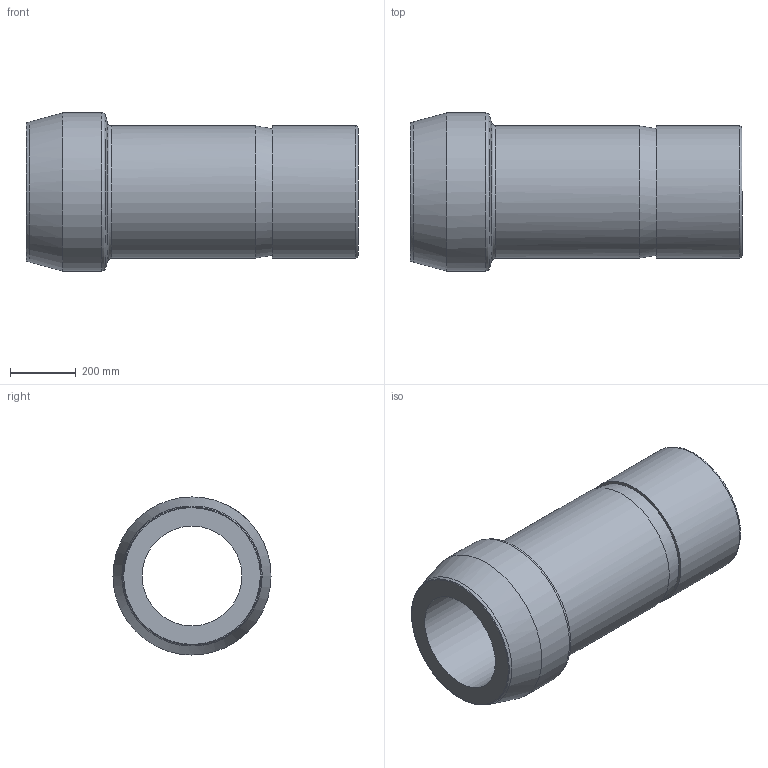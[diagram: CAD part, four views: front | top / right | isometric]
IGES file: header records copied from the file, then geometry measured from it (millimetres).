
Global section: file name: SPC-10; native system: Autodesk Inventor 2016; preprocessor: unknown; author: DESIGNPC2; date: 20151219.131735; units: millimetre
Bounding box: 1013.46 x 482.6 x 482.59 mm (x, y, z)
Volume: 66641766.9 mm3; surface area: 2474434.2 mm2
Topology: 1 solids, 1 shells, 15 faces, 50 edges, 37 vertices
Faces by surface type: bspline 15
